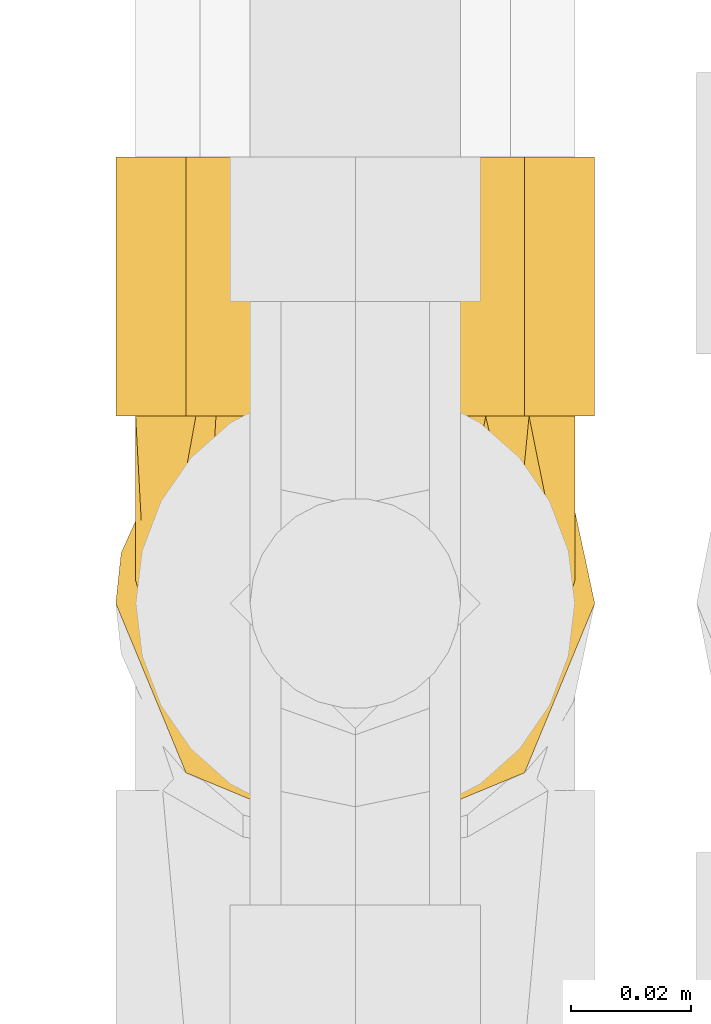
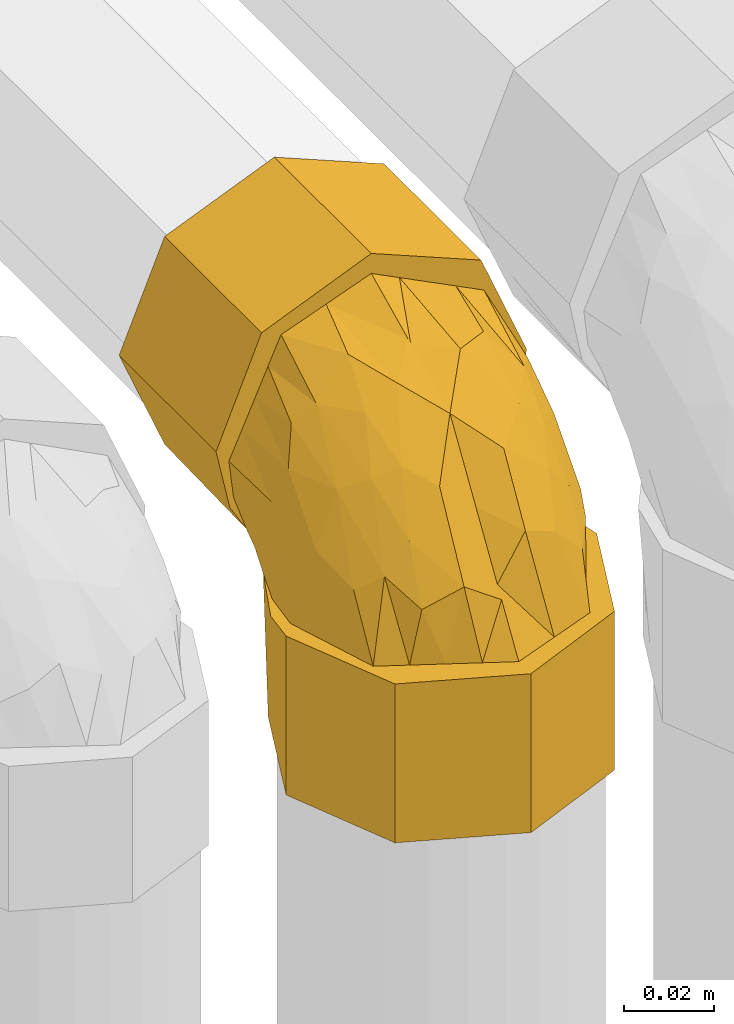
# One storey, part 232 of 652: 1 covering.
"""IFC2X3 building model written with IfcOpenShell, lengths in millimetres."""

from ifc_helpers import new_model, entity, si_unit, converted_unit, direction, frame, origin, place, context, subcontext, project, spatial, faceted_brep, material, type_object, element, save


model = new_model("IFC2X3")

# Units and contexts
model_context = context("Model", 3, precision=0.01, world=frame((0.0, 0.0, 308426.39999999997)), true_north=direction((6.123233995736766e-17, 1.0)))
plan_context = context("Plan", 3, precision=0.01, world=frame((0.0, 0.0, 308426.39999999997)), true_north=direction((6.123233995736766e-17, 1.0)))
body_context = subcontext(model_context, "Body", "Model", "MODEL_VIEW")
ifc_project = project(units=[si_unit("LENGTHUNIT", "METRE", prefix="MILLI"), si_unit("AREAUNIT", "SQUARE_METRE"), si_unit("VOLUMEUNIT", "CUBIC_METRE"), converted_unit("PLANEANGLEUNIT", "DEGREE", entity("IfcPlaneAngleMeasure", 0.017453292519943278), si_unit("PLANEANGLEUNIT", "RADIAN"), dimensions=[0, 0, 0, 0, 0, 0, 0])], contexts=[model_context, plan_context])

# Site, building, storey
site_placement = place(None, origin())
site = spatial("IfcSite", under=ifc_project, at=site_placement, Name="Default", CompositionType="ELEMENT")
building_placement = place(site_placement, origin())
building = spatial("IfcBuilding", under=site, at=building_placement, CompositionType="ELEMENT")
storey_placement = place(building_placement, frame((0.0, 0.0, 1730.6999999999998)))
storey = spatial("IfcBuildingStorey", under=building, at=storey_placement, Name="EG_Produktion_FFB", CompositionType="ELEMENT", Elevation=1730.6999999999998)

# Covering
ifc_material = material(Name="Dämmung - Armaflex-Schlauch")
covering_type = type_object("IfcCoveringType", Name="Rohrdämmung außen:Armaflex-Schlauch", PredefinedType="INSULATION")
covering_placement = place(storey_placement, frame((76538.64672776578, 51596.67508173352, 3825.915749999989)))
element("IfcCovering", 1, at=covering_placement, inside=storey, type_object=covering_type, material=ifc_material, Name="Rohrdämmung außen:Armaflex-Schlauch", ObjectType="Rohrdämmung außen:Armaflex-Schlauch", PredefinedType="INSULATION", context=body_context, shape_type="Brep", body=[
    faceted_brep([(76.62300673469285, 55.2934460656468, 43.00575000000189), (77.08951820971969, 51.30566939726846, 43.0057500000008), (77.81577223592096, 45.09759303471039, 43.00575000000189), (74.37467999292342, 37.461729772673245, 43.0057500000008), (70.93358774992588, 29.825866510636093, 43.00574999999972), (67.70657048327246, 22.665040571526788, 43.0057500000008), (64.47955321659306, 15.504214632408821, 43.00575000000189), (52.916412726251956, 11.25323096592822, 43.0057500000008), (41.35327223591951, 7.002247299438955, 43.00575000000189), (34.139683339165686, 10.651622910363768, 43.0057500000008), (26.926094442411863, 14.30099852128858, 43.0057500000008), (19.712505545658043, 17.95037413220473, 43.00574999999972), (12.498916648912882, 21.599749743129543, 43.00575000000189), (10.12212716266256, 28.940491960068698, 43.0057500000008), (7.506449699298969, 37.01904249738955, 43.0057500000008), (4.890772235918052, 45.09759303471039, 43.00575000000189), (5.617026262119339, 51.305669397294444, 43.00574999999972), (6.083537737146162, 55.2934460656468, 43.00575000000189), (7.721836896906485, 60.125242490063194, 43.00574999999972), (9.36013605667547, 64.95703891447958, 43.00575000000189), (5.923104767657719, 57.339633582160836, 43.00575000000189), (2.486073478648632, 49.72222824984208, 43.00575000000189), (1.5952722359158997, 41.35327223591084, 43.00575000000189), (4.907228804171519, 33.357501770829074, 43.00575000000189), (7.417696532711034, 27.296696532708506, 43.00575000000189), (10.3289086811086, 20.268408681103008, 43.00575000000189), (13.240120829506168, 13.240120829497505, 43.00575000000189), (20.268408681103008, 10.328908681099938, 43.00575000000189), (27.296696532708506, 7.417696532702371, 43.00575000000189), (34.32498438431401, 4.506484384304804, 43.00575000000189), (41.35327223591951, 1.5952722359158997, 43.00575000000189), (49.34904276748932, 4.907228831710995, 43.00575000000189), (55.40984793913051, 7.417696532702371, 43.00575000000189), (62.43813579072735, 10.328908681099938, 43.00575000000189), (69.46642364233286, 13.240120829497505, 43.00575000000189), (72.37763579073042, 20.268408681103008, 43.00575000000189), (75.28884793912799, 27.296696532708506, 43.00575000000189), (77.79931619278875, 33.35750303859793, 43.00575000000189), (81.11127223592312, 41.35327223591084, 43.00575000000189), (79.35208118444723, 49.52928377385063, 43.00575000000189), (77.59289013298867, 57.70529531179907, 43.00575000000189), (73.34640841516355, 64.95703891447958, 43.00575000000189), (74.98470757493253, 60.125242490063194, 43.00574999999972), (4.506484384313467, 48.38156008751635, 0.0), (7.417696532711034, 55.409847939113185, 0.0), (10.3289086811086, 62.43813579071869, 0.0), (13.240120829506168, 69.46642364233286, 0.0), (20.268408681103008, 72.37763579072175, 0.0), (27.296696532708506, 75.28884793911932, 0.0), (33.35750154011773, 77.79931557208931, 0.0), (41.35327223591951, 81.11127223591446, 0.0), (49.34904130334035, 77.79931624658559, 0.0), (55.40984793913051, 75.28884793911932, 0.0), (62.43813579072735, 72.37763579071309, 0.0), (69.46642364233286, 69.46642364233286, 0.0), (72.37763579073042, 62.43813579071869, 0.0), (75.28884793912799, 55.409847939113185, 0.0), (78.20006008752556, 48.38156008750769, 0.0), (81.11127223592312, 41.35327223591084, 0.0), (78.20006008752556, 34.324984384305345, 0.0), (75.28884793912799, 27.296696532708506, 0.0), (72.37763579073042, 20.268408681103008, 0.0), (69.46642364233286, 13.240120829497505, 0.0), (62.43813579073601, 10.328908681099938, 0.0), (55.40984793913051, 7.417696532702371, 0.0), (48.38156008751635, 4.506484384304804, 0.0), (41.35327223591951, 1.5952722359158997, 0.0), (34.32498438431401, 4.506484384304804, 0.0), (27.296696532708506, 7.417696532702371, 0.0), (20.268408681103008, 10.328908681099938, 0.0), (13.240120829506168, 13.240120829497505, 0.0), (8.219185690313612, 25.36173053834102, 0.0), (4.907228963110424, 33.35750138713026, 0.0), (1.5952722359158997, 41.35327223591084, 0.0), (16.057183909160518, 70.72483298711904, 39.143139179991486), (41.35327223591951, 81.11127223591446, 32.887345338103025), (32.053751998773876, 78.80194964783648, 34.08393684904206), (22.754231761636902, 76.4926270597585, 35.28052835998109), (27.40399188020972, 77.64728835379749, 34.68223260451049), (66.6493605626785, 70.72483298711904, 39.143139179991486), (50.65279247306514, 78.80194964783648, 34.08393684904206), (59.952312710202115, 76.4926270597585, 35.28052835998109), (45.661736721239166, 80.04136388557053, 33.441725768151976), (81.11127223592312, 72.43177223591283, 74.08425000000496), (77.7993156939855, 72.43177223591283, 82.08002040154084), (75.28884793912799, 72.43177223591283, 88.14082570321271), (72.37763579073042, 72.43177223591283, 95.16911355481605), (69.46642364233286, 72.43177223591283, 102.19740140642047), (62.43813579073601, 72.43177223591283, 105.10861355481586), (55.40984793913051, 72.43177223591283, 108.01982570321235), (49.3490413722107, 72.43177223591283, 110.53029398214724), (41.35327223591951, 72.43177223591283, 113.84225000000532), (33.357502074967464, 72.43177223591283, 110.53029355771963), (27.296696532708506, 72.43177223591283, 108.01982570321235), (20.268408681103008, 72.43177223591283, 105.10861355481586), (13.240120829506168, 72.43177223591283, 102.19740140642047), (10.3289086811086, 72.43177223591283, 95.16911355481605), (7.417696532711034, 72.43177223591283, 88.14082570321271), (4.506484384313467, 72.43177223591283, 81.11253785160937), (1.5952722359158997, 72.43177223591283, 74.08425000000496), (3.3544632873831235, 72.43177223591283, 65.90823846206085), (5.113654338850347, 72.43177223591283, 57.73222692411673), (9.36013605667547, 72.43177223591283, 50.48048332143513), (7.721836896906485, 72.43177223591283, 55.31227974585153), (6.083537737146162, 72.43177223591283, 60.1440761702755), (5.617026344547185, 72.43177223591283, 64.13185213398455), (5.253899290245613, 72.4317722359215, 67.23589066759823), (4.890772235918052, 72.43177223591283, 70.33992920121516), (8.224826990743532, 72.43177223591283, 77.73827380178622), (11.558881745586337, 72.43177223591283, 85.1366184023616), (14.892936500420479, 72.43177223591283, 92.534963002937), (18.22699125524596, 72.43177223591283, 99.93330760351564), (24.008561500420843, 72.43177223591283, 102.05879943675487), (29.790131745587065, 72.43177223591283, 104.18429126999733), (41.35327223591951, 72.43177223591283, 108.43527493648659), (48.56686113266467, 72.43177223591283, 104.78589932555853), (55.78045002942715, 72.43177223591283, 101.1365237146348), (62.99403892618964, 72.43177223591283, 97.48714810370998), (70.2076278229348, 72.43177223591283, 93.83777249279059), (72.10966392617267, 72.43177223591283, 87.96331166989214), (74.01170002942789, 72.43177223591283, 82.08885084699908), (77.81577223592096, 72.43177223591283, 70.33992920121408), (77.45264518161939, 72.43177223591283, 67.23589066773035), (77.08951812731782, 72.43177223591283, 64.13185213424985), (76.62300673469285, 72.43177223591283, 60.1440761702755), (74.98470757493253, 72.43177223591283, 55.31227974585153), (73.34640841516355, 72.43177223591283, 50.48048332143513), (76.7834397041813, 72.43177223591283, 58.097888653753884), (80.22047099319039, 72.43177223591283, 65.71529398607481), (4.506484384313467, 115.43752223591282, 81.11253785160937), (7.417696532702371, 115.43752223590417, 88.14082570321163), (10.3289086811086, 115.43752223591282, 95.16911355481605), (13.240120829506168, 115.43752223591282, 102.19740140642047), (25.361730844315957, 115.43752223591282, 107.21833667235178), (33.35750154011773, 115.43752223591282, 110.530293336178), (41.35327223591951, 115.43752223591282, 113.84225000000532), (48.38156008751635, 115.43752223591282, 110.93103785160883), (55.40984793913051, 115.43752223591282, 108.01982570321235), (62.43813579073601, 115.43752223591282, 105.10861355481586), (69.46642364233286, 115.43752223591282, 102.19740140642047), (72.37763579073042, 115.43752223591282, 95.16911355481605), (75.28884793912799, 115.43752223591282, 88.14082570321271), (78.20006008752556, 115.43752223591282, 81.11253785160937), (81.11127223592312, 115.43752223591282, 74.08425000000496), (78.20006008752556, 115.43752223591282, 67.05596214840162), (75.28884793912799, 115.43752223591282, 60.0276742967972), (72.37763579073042, 115.43752223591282, 52.99938644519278), (69.46642364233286, 115.43752223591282, 45.97109859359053), (62.43813579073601, 115.43752223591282, 43.059886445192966), (55.40984793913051, 115.43752223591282, 40.148674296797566), (49.34904309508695, 115.43752223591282, 37.63820673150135), (41.35327223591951, 115.43752223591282, 34.32625000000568), (33.357503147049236, 115.43752223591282, 37.63820599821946), (27.296696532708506, 115.43752223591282, 40.148674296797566), (20.268408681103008, 115.43752223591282, 43.059886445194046), (13.240120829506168, 115.43752223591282, 45.97109859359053), (10.3289086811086, 115.43752223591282, 52.99938644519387), (7.417696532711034, 115.43752223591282, 60.0276742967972), (4.907228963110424, 115.43752223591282, 66.08847915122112), (1.5952722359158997, 115.43752223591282, 74.08425000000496), (41.35327223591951, 82.55017689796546, 34.32625000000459), (32.05375199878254, 81.35358538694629, 36.63557258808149), (22.754231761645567, 80.1569938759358, 38.94489517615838), (32.736343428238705, 81.44141605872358, 36.46606666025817), (16.057183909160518, 76.29438305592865, 44.71268924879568), (66.6493605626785, 76.29438305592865, 44.71268924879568), (50.65279247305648, 81.35358538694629, 36.63557258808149), (59.95231271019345, 80.1569938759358, 38.94489517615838), (49.97020104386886, 81.44141605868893, 36.46606666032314), (45.66173663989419, 81.99579647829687, 35.39615833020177), (12.120840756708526, 57.27953829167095, 87.24563107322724), (11.864597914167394, 29.196562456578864, 59.255379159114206), (8.378054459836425, 39.99677644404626, 64.78568226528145), (4.890772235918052, 51.66581364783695, 54.444618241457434), (5.704430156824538, 44.427643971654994, 57.53683977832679), (5.818095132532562, 55.10574679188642, 69.54060567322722), (14.280504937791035, 40.74800020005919, 78.61273076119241), (17.28056825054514, 24.869749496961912, 63.63300022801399), (41.35327223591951, 37.51558616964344, 91.69909945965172), (33.2832979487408, 46.80229075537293, 97.09379966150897), (32.936990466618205, 27.559756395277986, 80.92903244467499), (41.35327223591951, 14.63058201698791, 55.179087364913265), (31.923106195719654, 14.91845121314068, 61.713557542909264), (20.52086951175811, 36.22638004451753, 81.91063946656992), (4.890772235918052, 70.04816151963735, 68.51539346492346), (4.890772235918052, 67.66455080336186, 66.69085772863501), (4.890772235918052, 62.89732937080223, 63.04178625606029), (4.890772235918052, 57.28157150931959, 58.74320224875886), (17.18561506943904, 54.94023827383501, 92.24225345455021), (23.49848008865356, 24.562664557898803, 71.24210235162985), (22.48243663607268, 17.335133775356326, 57.409234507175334), (24.51166214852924, 45.839036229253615, 92.66510975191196), (26.852776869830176, 33.94124595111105, 84.60868936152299), (41.35327223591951, 54.973679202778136, 100.06718719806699), (41.35327223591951, 56.13067021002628, 100.62176107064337), (41.35327223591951, 22.258916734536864, 67.35242472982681), (41.35327223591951, 25.996342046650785, 73.31662804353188), (41.35327223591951, 29.887251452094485, 79.52576209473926), (26.95482375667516, 57.75457775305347, 100.49812847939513), (8.90939071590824, 53.084365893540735, 78.60346314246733), (41.35327223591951, 16.49929467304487, 58.16118902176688), (4.890772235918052, 48.11331321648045, 48.2577699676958), (5.540058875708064, 55.88980313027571, 48.61142237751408), (6.751916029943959, 61.147999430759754, 47.90470472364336), (41.35327223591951, 81.8038063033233, 33.633715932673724), (6.670824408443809, 63.97836606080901, 51.45915668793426), (11.210836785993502, 70.52863846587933, 44.908883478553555), (6.751916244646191, 67.53281820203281, 54.28952252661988), (5.555021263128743, 66.92088050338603, 59.51870107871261), (77.16648559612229, 55.889803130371, 48.61142237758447), (77.81577223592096, 48.11331321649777, 48.25776996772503), (71.49570746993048, 70.52863882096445, 44.90888338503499), (76.03571971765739, 63.978366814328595, 51.45915593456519), (75.95462843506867, 61.1479994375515, 47.90470469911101), (77.81577223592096, 57.281571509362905, 58.7432022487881), (75.95462822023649, 67.53281822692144, 54.28952251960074), (77.15152320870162, 66.92088050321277, 59.51870107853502), (77.81577223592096, 67.66455080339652, 66.69085772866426), (77.81577223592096, 51.66581364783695, 54.444618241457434), (77.81577223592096, 70.04816151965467, 68.51539346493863), (77.81577223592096, 62.89732937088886, 63.04178625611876), (74.80598737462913, 37.54867793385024, 59.61186262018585), (71.5622524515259, 29.753616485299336, 58.147927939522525), (75.79919171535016, 58.23539538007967, 76.41301603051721), (50.8847120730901, 30.219684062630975, 83.37405497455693), (65.94296495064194, 38.437885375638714, 79.87091005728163), (73.58946657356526, 47.150672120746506, 74.44381850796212), (68.10768824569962, 50.851200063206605, 86.9025329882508), (76.81449307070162, 50.71304963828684, 66.09863101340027), (76.81985109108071, 42.39813250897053, 55.98858201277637), (67.36791849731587, 29.78207227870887, 67.81026209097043), (60.18508487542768, 39.604136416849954, 86.64625364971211), (51.08904624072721, 49.78456672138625, 98.35278997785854), (60.01109950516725, 54.9861016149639, 96.79734628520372), (73.08709853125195, 58.13081411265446, 83.33506495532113), (58.13792656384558, 19.784818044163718, 64.80279365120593), (61.63866824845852, 29.107014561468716, 74.76137203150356), (65.97235995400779, 21.418901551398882, 55.9952437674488), (49.62375736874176, 18.405512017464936, 68.64794002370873)], [[[0, 1, 2, 3, 4, 5, 6, 7, 8, 9, 10, 11, 12, 13, 14, 15, 16, 17, 18, 19, 20, 21, 22, 23, 24, 25, 26, 27, 28, 29, 30, 31, 32, 33, 34, 35, 36, 37, 38, 39, 40, 41, 42]], [[43, 44, 45, 46, 47, 48, 49, 50, 51, 52, 53, 54, 55, 56, 57, 58, 59, 60, 61, 62, 63, 64, 65, 66, 67, 68, 69, 70, 71, 72, 73]], [[47, 46, 74]], [[75, 50, 49]], [[76, 75, 49]], [[48, 77, 78, 76]], [[47, 74, 77]], [[44, 20, 45]], [[43, 21, 44]], [[46, 19, 74]], [[77, 48, 47]], [[44, 21, 20]], [[43, 22, 21]], [[48, 76, 49]], [[43, 73, 22]], [[45, 20, 19]], [[19, 46, 45]], [[23, 22, 73, 72, 71, 70, 26, 25, 24]], [[26, 70, 69, 68, 67, 66, 30, 29, 28, 27]], [[38, 37, 36, 35, 34, 62, 61, 60, 59, 58]], [[30, 66, 65, 64, 63, 62, 34, 33, 32, 31]], [[56, 40, 39]], [[53, 79, 54]], [[39, 57, 56]], [[41, 55, 54]], [[40, 55, 41]], [[80, 52, 51]], [[52, 80, 81]], [[58, 57, 38]], [[51, 75, 82, 80]], [[38, 57, 39]], [[79, 53, 81]], [[55, 40, 56]], [[51, 50, 75]], [[53, 52, 81]], [[79, 41, 54]], [[83, 84, 85, 86, 87, 88, 89, 90, 91, 92, 93, 94, 95, 96, 97, 98, 99, 100, 101, 102, 103, 104, 105, 106, 107, 108, 109, 110, 111, 112, 113, 114, 115, 116, 117, 118, 119, 120, 121, 122, 123, 124, 125, 126, 127, 128]], [[129, 130, 131, 132, 133, 134, 135, 136, 137, 138, 139, 140, 141, 142, 143, 144, 145, 146, 147, 148, 149, 150, 151, 152, 153, 154, 155, 156, 157, 158, 159]], [[135, 134, 133, 132, 95, 94, 93, 92, 91]], [[95, 132, 131, 130, 129, 159, 99, 98, 97, 96]], [[159, 158, 157, 100]], [[101, 156, 102]], [[99, 159, 100]], [[101, 100, 157]], [[152, 151, 160]], [[102, 156, 155]], [[153, 161, 162]], [[161, 153, 152]], [[152, 160, 163, 161]], [[154, 164, 155]], [[164, 154, 162]], [[156, 101, 157]], [[154, 153, 162]], [[164, 102, 155]], [[148, 147, 165]], [[149, 166, 150]], [[166, 149, 167]], [[160, 151, 150]], [[148, 165, 167]], [[145, 127, 146]], [[144, 128, 145]], [[147, 126, 165]], [[167, 149, 148]], [[145, 128, 127]], [[144, 83, 128]], [[150, 166, 168, 169, 160]], [[144, 143, 83]], [[146, 127, 126]], [[126, 147, 146]], [[91, 90, 89, 88, 87, 139, 138, 137, 136, 135]], [[141, 140, 139, 87, 86, 85, 84, 83, 143, 142]], [[109, 170, 110]], [[13, 171, 172]], [[14, 13, 172]], [[173, 174, 175]], [[176, 171, 177]], [[15, 14, 174]], [[178, 179, 180]], [[9, 181, 182]], [[172, 175, 174]], [[13, 12, 171]], [[12, 11, 177]], [[176, 177, 183]], [[175, 107, 184, 185, 186, 187, 173]], [[188, 170, 176]], [[176, 172, 171]], [[189, 190, 182]], [[11, 10, 190]], [[177, 11, 190]], [[170, 188, 110]], [[191, 183, 192]], [[179, 178, 193, 194]], [[182, 190, 10]], [[182, 195, 180]], [[177, 190, 189]], [[182, 10, 9]], [[180, 195, 196, 197, 178]], [[177, 189, 183]], [[177, 171, 12]], [[113, 179, 194]], [[189, 182, 180]], [[112, 111, 198, 113]], [[198, 111, 188]], [[194, 114, 113]], [[179, 191, 192]], [[199, 175, 172]], [[199, 108, 175]], [[172, 176, 199]], [[188, 111, 110]], [[199, 170, 109]], [[183, 188, 176]], [[108, 199, 109]], [[188, 191, 198]], [[108, 107, 175]], [[176, 170, 199]], [[192, 189, 180]], [[188, 183, 191]], [[189, 192, 183]], [[179, 192, 180]], [[181, 9, 8]], [[182, 181, 200, 195]], [[191, 179, 198]], [[179, 113, 198]], [[174, 173, 201, 15]], [[172, 174, 14]], [[173, 202, 201]], [[173, 187, 203]], [[18, 203, 19]], [[201, 17, 16, 15]], [[204, 76, 163]], [[74, 164, 162, 77]], [[163, 76, 78, 77, 162, 161]], [[205, 102, 206]], [[206, 164, 74]], [[106, 105, 104, 185, 184, 107]], [[205, 207, 102]], [[186, 185, 208, 187]], [[204, 75, 76]], [[163, 160, 204]], [[205, 206, 19]], [[164, 206, 102]], [[203, 205, 19]], [[19, 206, 74]], [[201, 202, 17]], [[17, 202, 18]], [[203, 202, 173]], [[18, 202, 203]], [[102, 207, 103]], [[103, 208, 104]], [[207, 205, 187]], [[208, 103, 207]], [[208, 185, 104]], [[187, 208, 207]], [[203, 187, 205]], [[204, 160, 169]], [[209, 210, 0]], [[169, 168, 166, 167, 81, 80, 82]], [[41, 211, 212]], [[1, 0, 210, 2]], [[213, 212, 214]], [[204, 169, 82]], [[79, 165, 211]], [[126, 125, 215]], [[212, 211, 126]], [[204, 82, 75]], [[167, 165, 79, 81]], [[216, 124, 217]], [[218, 209, 213]], [[122, 121, 219, 217, 124, 123]], [[41, 79, 211]], [[211, 165, 126]], [[209, 0, 42]], [[125, 124, 216]], [[126, 215, 212]], [[125, 216, 215]], [[220, 214, 216, 217]], [[213, 42, 41]], [[212, 213, 41]], [[210, 209, 218]], [[214, 212, 215]], [[209, 42, 213]], [[215, 216, 214]], [[218, 213, 214]], [[4, 221, 222]], [[223, 121, 120]], [[224, 178, 197, 196]], [[225, 226, 227]], [[228, 226, 221]], [[229, 218, 228]], [[222, 226, 230]], [[231, 232, 224]], [[3, 229, 221]], [[233, 232, 231]], [[234, 223, 120]], [[229, 2, 210, 218]], [[224, 235, 236]], [[4, 3, 221]], [[228, 218, 214, 220, 217, 219, 121]], [[237, 222, 230]], [[6, 235, 7]], [[235, 6, 237]], [[238, 200, 7]], [[228, 223, 226]], [[224, 238, 235]], [[234, 226, 223]], [[227, 117, 233]], [[193, 232, 115]], [[224, 232, 178]], [[115, 114, 194, 193]], [[235, 237, 236]], [[238, 224, 196]], [[226, 222, 221]], [[222, 237, 5]], [[5, 237, 6]], [[5, 4, 222]], [[237, 230, 236]], [[7, 200, 181, 8]], [[7, 235, 238]], [[238, 196, 195, 200]], [[227, 118, 117]], [[193, 178, 232]], [[231, 236, 225]], [[233, 117, 116]], [[232, 233, 116]], [[227, 233, 231]], [[229, 3, 2]], [[228, 221, 229]], [[121, 223, 228]], [[119, 118, 234, 120]], [[234, 118, 227]], [[227, 226, 234]], [[232, 116, 115]], [[225, 236, 230]], [[224, 236, 231]], [[226, 225, 230]], [[231, 225, 227]]]),
])

save(model, "model.ifc")
